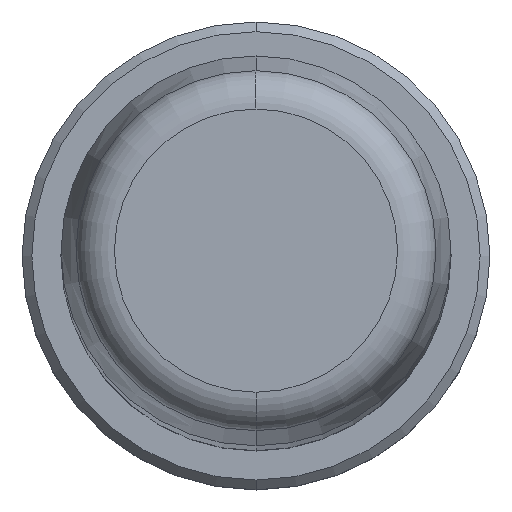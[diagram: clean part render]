
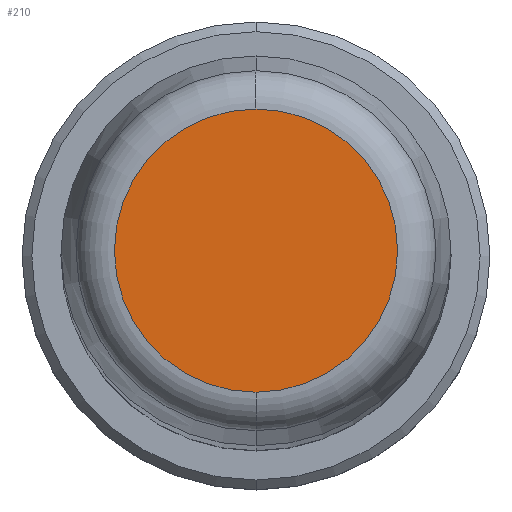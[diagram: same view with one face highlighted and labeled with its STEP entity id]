
A CAD part, top view. The second image highlights one B-rep face of the part: STEP entity #210.
In plain terms, the highlighted planar face has unit normal (0, 0, 1).
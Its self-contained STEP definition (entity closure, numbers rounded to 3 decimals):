
#1=CARTESIAN_POINT('',(0.,0.,160.));
#2=DIRECTION('',(0.,0.,-1.));
#3=DIRECTION('',(0.,-1.,0.));
#4=AXIS2_PLACEMENT_3D('',#1,#2,#3);
#6=CARTESIAN_POINT('',(0.,0.,160.));
#7=DIRECTION('',(0.,0.,-1.));
#8=DIRECTION('',(0.,1.,0.));
#9=AXIS2_PLACEMENT_3D('',#6,#7,#8);
#183=CARTESIAN_POINT('',(0.,-7.264,160.));
#184=CARTESIAN_POINT('',(0.,7.264,160.));
#185=VERTEX_POINT('',#183);
#186=VERTEX_POINT('',#184);
#199=CARTESIAN_POINT('',(0.,0.,160.));
#200=DIRECTION('',(0.,0.,1.));
#201=DIRECTION('',(0.,-1.,0.));
#202=AXIS2_PLACEMENT_3D('',#199,#200,#201);
#203=PLANE('',#202);
#205=ORIENTED_EDGE('',*,*,#204,.T.);
#207=ORIENTED_EDGE('',*,*,#206,.T.);
#208=EDGE_LOOP('',(#205,#207));
#209=FACE_OUTER_BOUND('',#208,.F.);
#210=ADVANCED_FACE('',(#209),#203,.T.);
#5=CIRCLE('',#4,7.264);
#10=CIRCLE('',#9,7.264);
#204=EDGE_CURVE('',#185,#186,#5,.T.);
#206=EDGE_CURVE('',#186,#185,#10,.T.);
